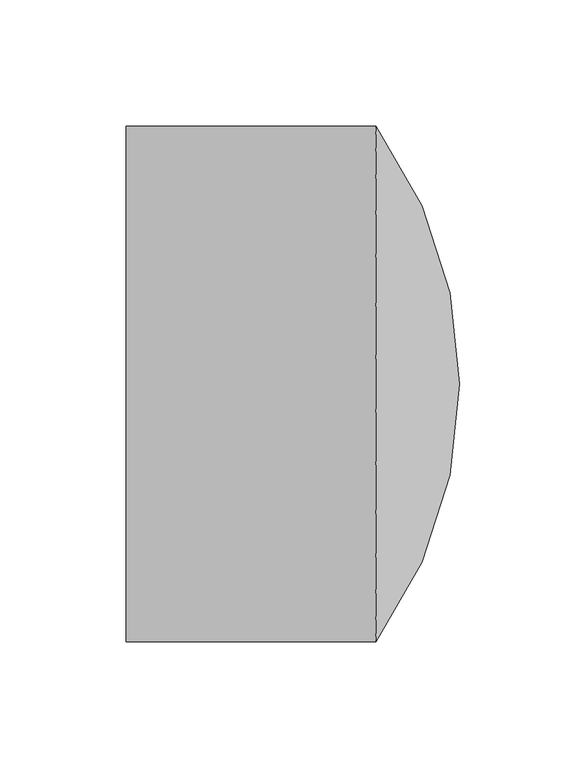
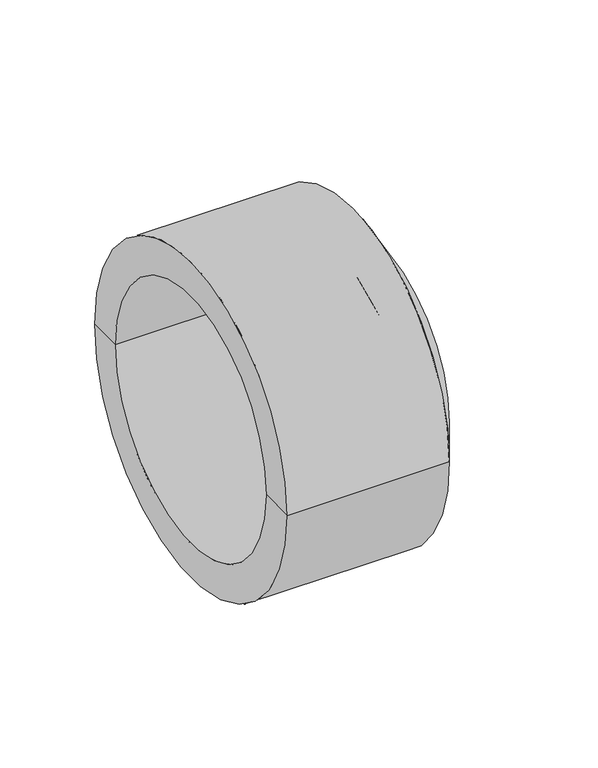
"""IFC4 building model written with IfcOpenShell, lengths in millimetres: pipe fitting geometry, EGB_VASEN_ PPR_Tapon a tope WXB700 : Tapón a tope WXRB700."""

from ifc_helpers import new_model, si_unit, point, frame, origin, place, context, project, spatial, polyline, circle_curve, ellipse_curve, trimmed, source, transform, mapped, element, save
from ifc_brep_helpers import plane_surface, cylinder_surface, revolved_surface, advanced_brep


def pipe_fitting_29485cbc(model_context):
    return source(origin(), model_context, "Body", "AdvancedBrep", [
        advanced_brep(
        [(0.0, -102.0, 0.0), (0.0, 102.0, 0.0), (99.0, 102.0, 0.0), (99.0, -102.0, 0.0), (0.0, -80.0, 0.0), (0.0, 80.0, 0.0), (87.2796703, -80.0, 0.0), (87.2796703, 80.0, 0.0), (110.0, 0.0, 0.0), (132.0, 0.0, 0.0)],
        [
            (0, 1, circle_curve(frame((0.0, 0.0, 0.0), z_axis=(1.0, 0.0, 0.0), x_axis=(0.0, 1.0, 0.0)), 102.0)),
            (1, 2),
            (2, 3, circle_curve(frame((99.0, 0.0, 0.0), z_axis=(-1.0, 0.0, 0.0), x_axis=(0.0, 1.0, 0.0)), 102.0)),
            (3, 0),
            (1, 0, circle_curve(frame((0.0, 0.0, 0.0), z_axis=(1.0, 0.0, 0.0), x_axis=(0.0, 1.0, 0.0)), 102.0)),
            (3, 2, circle_curve(frame((99.0, 0.0, 0.0), z_axis=(-1.0, 0.0, 0.0), x_axis=(0.0, 1.0, 0.0)), 102.0)),
            (4, 5, circle_curve(frame((0.0, 0.0, 0.0), z_axis=(1.0, 0.0, 0.0), x_axis=(0.0, 1.0, 0.0)), 80.0)),
            (5, 1),
            (0, 4),
            (5, 4, circle_curve(frame((0.0, 0.0, 0.0), z_axis=(1.0, 0.0, 0.0), x_axis=(0.0, 1.0, 0.0)), 80.0)),
            (6, 7, circle_curve(frame((87.2796703, 0.0, 0.0), z_axis=(1.0, 0.0, 0.0), x_axis=(0.0, 1.0, 0.0)), 80.0)),
            (7, 5),
            (4, 6),
            (7, 6, circle_curve(frame((87.2796703, 0.0, 0.0), z_axis=(1.0, 0.0, 0.0), x_axis=(0.0, 1.0, 0.0)), 80.0)),
            (8, 7, circle_curve(frame((-41.6561794, 0.1553537, 0.0), z_axis=(0.0, 0.0, 1.0), x_axis=(1.0, 0.0, 0.0)), 151.6562589)),
            (6, 8, circle_curve(frame((-41.6561794, -0.1553537, 0.0), z_axis=(0.0, 0.0, 1.0), x_axis=(1.0, 0.0, 0.0)), 151.6562589)),
            (2, 9, circle_curve(frame((-41.6561794, 0.1553537, 0.0), z_axis=(0.0, 0.0, -1.0), x_axis=(1.0, 0.0, 0.0)), 173.6562489)),
            (9, 3, circle_curve(frame((-41.6561794, -0.1553537, 0.0), z_axis=(0.0, 0.0, -1.0), x_axis=(1.0, 0.0, 0.0)), 173.6562489)),
        ],
        [
            cylinder_surface(frame((8.258615, 0.0, 0.0), z_axis=(-1.0, 0.0, 0.0), x_axis=(0.0, 1.0, 0.0)), 102.0),
            plane_surface(frame((0.0, 0.0, 0.0), z_axis=(-1.0, 0.0, 0.0), x_axis=(0.0, 1.0, 0.0))),
            revolved_surface(polyline([(0.0, 80.0, 0.0), (87.2796703, 80.0, 0.0)]), (8.258615, 0.0, 0.0), (-1.0, 0.0, 0.0)),
            revolved_surface(trimmed(ellipse_curve(frame((-41.6561794, 0.1553537, 0.0), z_axis=(0.0, 0.0, -1.0), x_axis=(1.0, 0.0, 0.0)), 151.6562589, 151.6562589), [point((87.2796703, 80.0, 0.0))], [point((110.0, 0.0, 0.0))], True, "CARTESIAN"), (8.258615, 0.0, 0.0), (-1.0, 0.0, 0.0)),
            revolved_surface(trimmed(ellipse_curve(frame((-41.6561794, 0.1553537, 0.0), z_axis=(0.0, 0.0, 1.0), x_axis=(1.0, 0.0, 0.0)), 173.6562489, 173.6562489), [point((132.0, 0.0, 0.0))], [point((99.0, 102.0, 0.0))], True, "CARTESIAN"), (8.258615, 0.0, 0.0), (-1.0, 0.0, 0.0)),
        ],
        [
            (0, [[1, 2, 3, 4]]),
            (0, [[5, -4, 6, -2]]),
            (1, [[7, 8, -1, 9]]),
            (1, [[10, -9, -5, -8]]),
            (2, [[11, 12, -7, 13]]),
            (2, [[14, -13, -10, -12]]),
            (3, [[15, -11, 16]]),
            (3, [[-16, -14, -15]]),
            (4, [[-3, 17, 18]]),
            (4, [[-6, -18, -17]]),
        ],
    ),
    ])


if __name__ == "__main__":
    model = new_model("IFC4")
    model_context = context("Model", 3, world=origin())
    ifc_project = project(units=[si_unit("LENGTHUNIT", "METRE", prefix="MILLI")], contexts=[model_context])
    site = spatial("IfcSite", under=ifc_project)
    building = spatial("IfcBuilding", under=site)
    placement = place(None, origin())
    pipe_fitting_shape = pipe_fitting_29485cbc(model_context)
    element("IfcPipeFitting", 1, ObjectType="EGB_VASEN_ PPR_Tapon a tope WXB700 : Tapón a tope WXRB700", at=placement, inside=building, context=model_context, shape_type="MappedRepresentation", body=[
        mapped(pipe_fitting_shape, transform((0.0, 0.0, 0.0), x_axis=(1.0, 0.0, 0.0), y_axis=(0.0, 1.0, 0.0), z_axis=(0.0, 0.0, 1.0))),
    ])
    save(model, "model.ifc")
